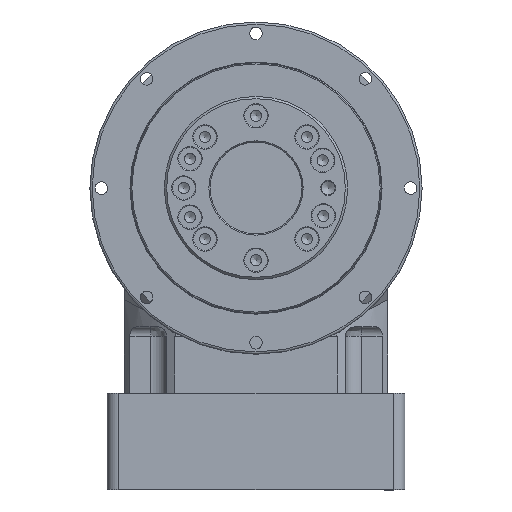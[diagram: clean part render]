
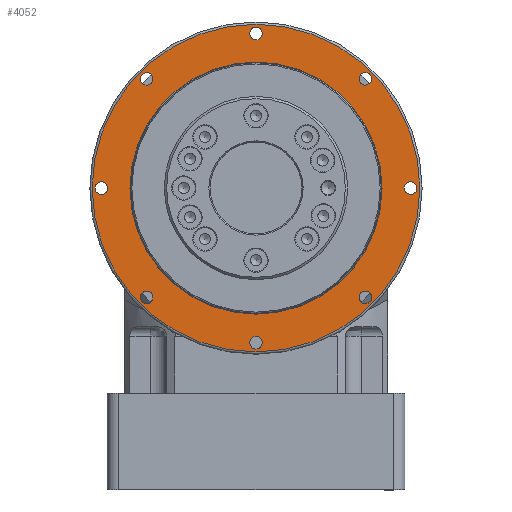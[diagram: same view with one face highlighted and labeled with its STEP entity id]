
A CAD part, top view. The second image highlights one B-rep face of the part: STEP entity #4052.
In plain terms, the highlighted planar face has unit normal (0, 0, 1).
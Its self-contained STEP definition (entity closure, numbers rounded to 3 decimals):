
#280=CARTESIAN_POINT('',(67.5,-2.75,8.0));
#281=VERTEX_POINT('',#280);
#282=CARTESIAN_POINT('',(67.5,0.,8.0));
#283=DIRECTION('',(0.0,0.0,-1.0));
#284=DIRECTION('',(0.0,1.0,0.0));
#285=AXIS2_PLACEMENT_3D('',#282,#283,#284);
#286=CIRCLE('',#285,2.75);
#287=EDGE_CURVE('',#281,#281,#286,.T.);
#308=CARTESIAN_POINT('',(2.75,67.5,8.0));
#309=VERTEX_POINT('',#308);
#310=CARTESIAN_POINT('',(0.0,67.5,8.0));
#311=DIRECTION('',(0.0,0.0,-1.0));
#312=DIRECTION('',(-1.0,0.0,0.0));
#313=AXIS2_PLACEMENT_3D('',#310,#311,#312);
#314=CIRCLE('',#313,2.75);
#315=EDGE_CURVE('',#309,#309,#314,.T.);
#336=CARTESIAN_POINT('',(-2.75,-67.5,8.0));
#337=VERTEX_POINT('',#336);
#338=CARTESIAN_POINT('',(0.,-67.5,8.0));
#339=DIRECTION('',(0.0,0.0,-1.0));
#340=DIRECTION('',(1.0,0.0,0.0));
#341=AXIS2_PLACEMENT_3D('',#338,#339,#340);
#342=CIRCLE('',#341,2.75);
#343=EDGE_CURVE('',#337,#337,#342,.T.);
#364=CARTESIAN_POINT('',(-45.785,49.674,8.0));
#365=VERTEX_POINT('',#364);
#366=CARTESIAN_POINT('',(-47.73,47.73,8.0));
#367=DIRECTION('',(0.0,0.0,-1.0));
#368=DIRECTION('',(-0.707,-0.707,0.0));
#369=AXIS2_PLACEMENT_3D('',#366,#367,#368);
#370=CIRCLE('',#369,2.75);
#371=EDGE_CURVE('',#365,#365,#370,.T.);
#392=CARTESIAN_POINT('',(45.785,-49.674,8.0));
#393=VERTEX_POINT('',#392);
#394=CARTESIAN_POINT('',(47.73,-47.73,8.0));
#395=DIRECTION('',(0.0,0.0,-1.0));
#396=DIRECTION('',(0.707,0.707,0.0));
#397=AXIS2_PLACEMENT_3D('',#394,#395,#396);
#398=CIRCLE('',#397,2.75);
#399=EDGE_CURVE('',#393,#393,#398,.T.);
#420=CARTESIAN_POINT('',(49.674,45.785,8.0));
#421=VERTEX_POINT('',#420);
#422=CARTESIAN_POINT('',(47.73,47.73,8.0));
#423=DIRECTION('',(0.0,0.0,-1.));
#424=DIRECTION('',(-0.707,0.707,0.0));
#425=AXIS2_PLACEMENT_3D('',#422,#423,#424);
#426=CIRCLE('',#425,2.75);
#427=EDGE_CURVE('',#421,#421,#426,.T.);
#516=CARTESIAN_POINT('',(-67.5,2.75,8.0));
#517=VERTEX_POINT('',#516);
#518=CARTESIAN_POINT('',(-67.5,0.0,8.0));
#519=DIRECTION('',(0.0,0.0,-1.0));
#520=DIRECTION('',(0.0,-1.0,0.0));
#521=AXIS2_PLACEMENT_3D('',#518,#519,#520);
#522=CIRCLE('',#521,2.75);
#523=EDGE_CURVE('',#517,#517,#522,.T.);
#3986=CARTESIAN_POINT('',(71.5,0.,8.0));
#3987=VERTEX_POINT('',#3986);
#3988=CARTESIAN_POINT('',(0.0,0.0,8.0));
#3989=DIRECTION('',(0.0,0.0,-1.0));
#3990=DIRECTION('',(-1.0,0.0,0.0));
#3991=AXIS2_PLACEMENT_3D('',#3988,#3989,#3990);
#3992=CIRCLE('',#3991,71.5);
#3993=EDGE_CURVE('',#3987,#3987,#3992,.T.);
#4001=CARTESIAN_POINT('',(0.0,0.0,8.0));
#4002=DIRECTION('',(0.0,0.0,-1.0));
#4003=DIRECTION('',(-1.0,0.0,0.0));
#4004=AXIS2_PLACEMENT_3D('',#4001,#4002,#4003);
#4005=PLANE('',#4004);
#4006=ORIENTED_EDGE('',*,*,#3993,.F.);
#4007=EDGE_LOOP('',(#4006));
#4008=FACE_OUTER_BOUND('',#4007,.T.);
#4009=CARTESIAN_POINT('',(55.0,0.,8.0));
#4010=VERTEX_POINT('',#4009);
#4011=CARTESIAN_POINT('',(0.0,0.0,8.0));
#4012=DIRECTION('',(0.0,0.0,-1.0));
#4013=DIRECTION('',(-1.0,0.0,0.0));
#4014=AXIS2_PLACEMENT_3D('',#4011,#4012,#4013);
#4015=CIRCLE('',#4014,55.0);
#4016=EDGE_CURVE('',#4010,#4010,#4015,.T.);
#4017=ORIENTED_EDGE('',*,*,#4016,.T.);
#4018=EDGE_LOOP('',(#4017));
#4019=FACE_BOUND('',#4018,.T.);
#4020=ORIENTED_EDGE('',*,*,#315,.T.);
#4021=EDGE_LOOP('',(#4020));
#4022=FACE_BOUND('',#4021,.T.);
#4023=ORIENTED_EDGE('',*,*,#371,.T.);
#4024=EDGE_LOOP('',(#4023));
#4025=FACE_BOUND('',#4024,.T.);
#4026=ORIENTED_EDGE('',*,*,#523,.T.);
#4027=EDGE_LOOP('',(#4026));
#4028=FACE_BOUND('',#4027,.T.);
#4029=CARTESIAN_POINT('',(-49.674,-45.785,8.0));
#4030=VERTEX_POINT('',#4029);
#4031=CARTESIAN_POINT('',(-47.73,-47.73,8.0));
#4032=DIRECTION('',(0.0,0.0,-1.0));
#4033=DIRECTION('',(0.707,-0.707,0.0));
#4034=AXIS2_PLACEMENT_3D('',#4031,#4032,#4033);
#4035=CIRCLE('',#4034,2.75);
#4036=EDGE_CURVE('',#4030,#4030,#4035,.T.);
#4037=ORIENTED_EDGE('',*,*,#4036,.T.);
#4038=EDGE_LOOP('',(#4037));
#4039=FACE_BOUND('',#4038,.T.);
#4040=ORIENTED_EDGE('',*,*,#343,.T.);
#4041=EDGE_LOOP('',(#4040));
#4042=FACE_BOUND('',#4041,.T.);
#4043=ORIENTED_EDGE('',*,*,#399,.T.);
#4044=EDGE_LOOP('',(#4043));
#4045=FACE_BOUND('',#4044,.T.);
#4046=ORIENTED_EDGE('',*,*,#287,.T.);
#4047=EDGE_LOOP('',(#4046));
#4048=FACE_BOUND('',#4047,.T.);
#4049=ORIENTED_EDGE('',*,*,#427,.T.);
#4050=EDGE_LOOP('',(#4049));
#4051=FACE_BOUND('',#4050,.T.);
#4052=ADVANCED_FACE('',(#4008,#4019,#4022,#4025,#4028,#4039,#4042,#4045,#4048,#4051),#4005,.F.);
